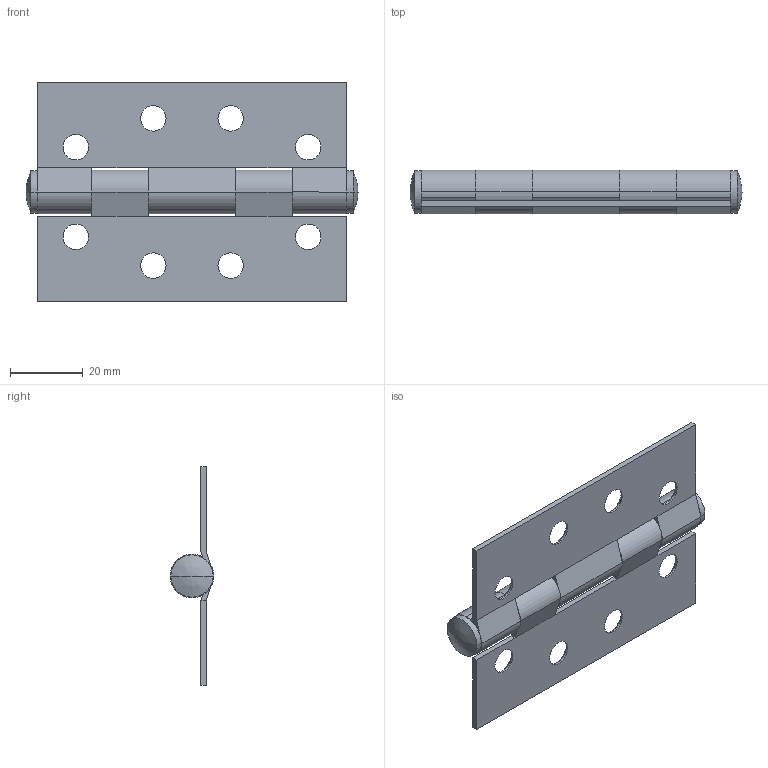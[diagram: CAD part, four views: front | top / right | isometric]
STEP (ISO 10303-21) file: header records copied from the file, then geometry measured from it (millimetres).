
FILE_DESCRIPTION (( 'STEP AP203' ), '1' );
FILE_NAME ('80139_1.STEP', '2020-05-27T06:37:39', ( '' ), ( '' ), 'SwSTEP 2.0', 'SolidWorks 2016', '' );
FILE_SCHEMA (( 'CONFIG_CONTROL_DESIGN' ));
Length unit declared in the file: millimetre
Products named in the file (4): 80139_1; 80139_Cover_2; 80139; Pin80139
Assembly tree (3 placements, depth 2):
  80139_1
    80139_Cover_2
    80139
    Pin80139
Bounding box: 91.11 x 12 x 60 mm (x, y, z)
Volume: 13337.1 mm3; surface area: 16594.2 mm2
Topology: 3 solids, 3 shells, 112 faces, 282 edges, 174 vertices
Faces by surface type: cylinder 52, plane 40, cone 16, bspline 4
Entity records: 3804 total; most frequent: DIRECTION 622, CARTESIAN_POINT 622, ORIENTED_EDGE 556, EDGE_CURVE 278, AXIS2_PLACEMENT_3D 234, VERTEX_POINT 174, VECTOR 154, LINE 154
